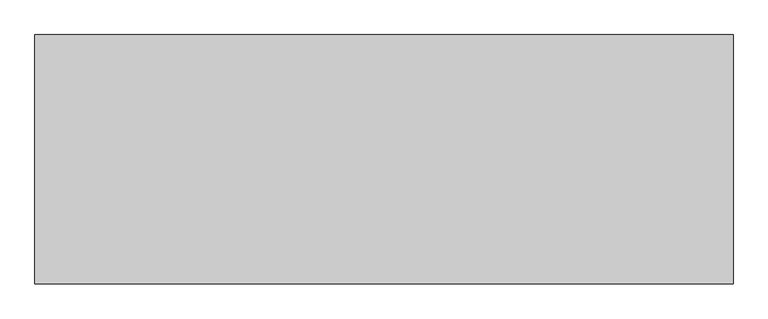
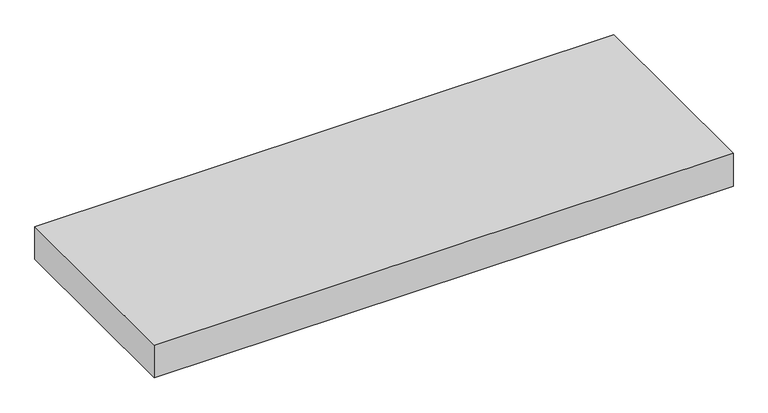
"""IFC4 building model written with IfcOpenShell, lengths in millimetres: furniture geometry, P04 Mostrador cantina : P04 Mostrador cantina."""

from ifc_helpers import new_model, si_unit, origin, place, context, project, spatial, faceted_brep, source, transform, mapped, element, save


def furniture_abbcea69(model_context):
    return source(origin(), model_context, "Body", "Brep", [
        faceted_brep([(134.7003264, -600.0, 0.0), (134.7003264, 0.0, 0.0), (-1545.2996736, 0.0, 0.0), (-1545.2996736, -600.0, 0.0), (122.7003264, -12.0, -20.0), (122.7003264, -588.0, -20.0), (-1533.2996736, -588.0, -20.0), (-1533.2996736, -12.0, -20.0), (134.7003264, -600.0, -100.0), (134.7003264, 0.0, -100.0), (-1545.2996736, 0.0, -100.0), (-1545.2996736, -600.0, -100.0), (122.7003264, -12.0, -100.0), (-1533.2996736, -12.0, -100.0), (-1533.2996736, -588.0, -100.0), (122.7003264, -588.0, -100.0)], [[[0, 1, 2, 3]], [[4, 5, 6, 7]], [[1, 0, 8, 9]], [[2, 1, 9, 10]], [[3, 2, 10, 11]], [[8, 0, 3, 11]], [[9, 8, 11, 10], [12, 13, 14, 15]], [[12, 15, 5, 4]], [[15, 14, 6, 5]], [[14, 13, 7, 6]], [[13, 12, 4, 7]]]),
    ])


if __name__ == "__main__":
    model = new_model("IFC4")
    model_context = context("Model", 3, world=origin())
    ifc_project = project(units=[si_unit("LENGTHUNIT", "METRE", prefix="MILLI")], contexts=[model_context])
    site = spatial("IfcSite", under=ifc_project)
    building = spatial("IfcBuilding", under=site)
    placement = place(None, origin())
    furniture_shape = furniture_abbcea69(model_context)
    element("IfcFurniture", 1, ObjectType="P04 Mostrador cantina : P04 Mostrador cantina", at=placement, inside=building, context=model_context, shape_type="MappedRepresentation", body=[
        mapped(furniture_shape, transform((0.0, 0.0, 0.0), x_axis=(1.0, 0.0, 0.0), y_axis=(0.0, 1.0, 0.0), z_axis=(0.0, 0.0, 1.0))),
    ])
    save(model, "model.ifc")
